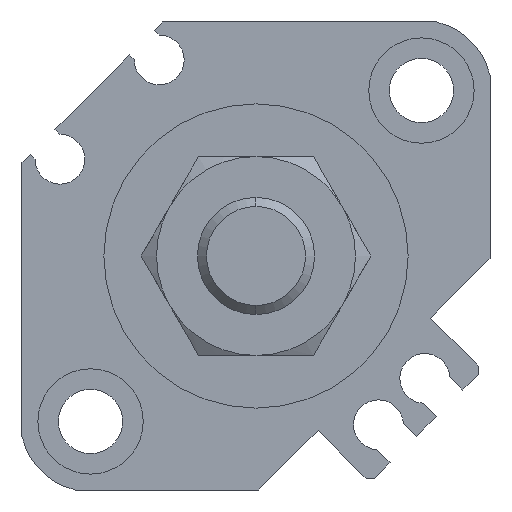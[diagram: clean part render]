
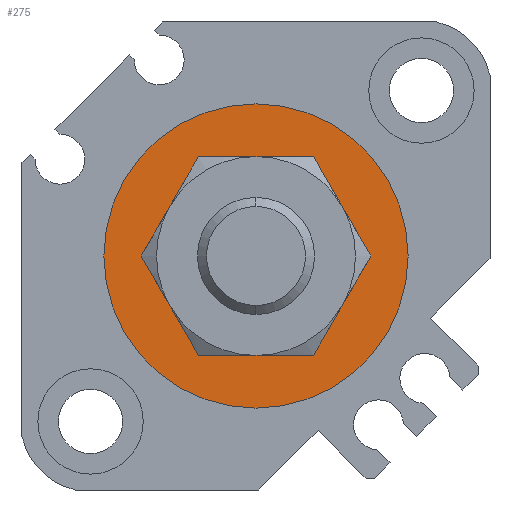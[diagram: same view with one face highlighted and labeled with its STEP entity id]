
A CAD part, left-side view. The second image highlights one B-rep face of the part: STEP entity #275.
In plain terms, the highlighted planar face has unit normal (-1, 0, 0).
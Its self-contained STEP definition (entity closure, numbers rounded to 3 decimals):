
#84 = EDGE_CURVE ( 'NONE', #685, #648, #2756, .T. ) ;
#141 = CIRCLE ( 'NONE', #4063, 7.5 ) ;
#172 = CARTESIAN_POINT ( 'NONE',  ( 1.9, 0., -13. ) ) ;
#270 = EDGE_CURVE ( 'NONE', #5042, #2590, #2208, .T. ) ;
#275 = ADVANCED_FACE ( 'NONE', ( #740, #3150 ), #1074, .F. ) ;
#297 = CARTESIAN_POINT ( 'NONE',  ( 1.9, 0., 0. ) ) ;
#382 = AXIS2_PLACEMENT_3D ( 'NONE', #4438, #2744, #4003 ) ;
#575 = CARTESIAN_POINT ( 'NONE',  ( 1.9, 0., -7.5 ) ) ;
#648 = VERTEX_POINT ( 'NONE', #575 ) ;
#685 = VERTEX_POINT ( 'NONE', #2296 ) ;
#714 = DIRECTION ( 'NONE',  ( 1., 0., 0. ) ) ;
#740 = FACE_OUTER_BOUND ( 'NONE', #3762, .T. ) ;
#743 = AXIS2_PLACEMENT_3D ( 'NONE', #3552, #4379, #4787 ) ;
#763 = DIRECTION ( 'NONE',  ( 0., 0., -1. ) ) ;
#791 = ORIENTED_EDGE ( 'NONE', *, *, #4454, .T. ) ;
#1074 = PLANE ( 'NONE',  #382 ) ;
#1096 = CIRCLE ( 'NONE', #743, 13. ) ;
#1124 = CARTESIAN_POINT ( 'NONE',  ( 1.9, 0., 0. ) ) ;
#1403 = CARTESIAN_POINT ( 'NONE',  ( 1.9, 0., 0. ) ) ;
#1848 = EDGE_LOOP ( 'NONE', ( #2675, #791 ) ) ;
#2162 = DIRECTION ( 'NONE',  ( 1., 0., 0. ) ) ;
#2208 = CIRCLE ( 'NONE', #5269, 13. ) ;
#2296 = CARTESIAN_POINT ( 'NONE',  ( 1.9, 0., 7.5 ) ) ;
#2590 = VERTEX_POINT ( 'NONE', #4585 ) ;
#2675 = ORIENTED_EDGE ( 'NONE', *, *, #84, .T. ) ;
#2744 = DIRECTION ( 'NONE',  ( 1., 0., 0. ) ) ;
#2756 = CIRCLE ( 'NONE', #3188, 7.5 ) ;
#2810 = DIRECTION ( 'NONE',  ( 1., 0., 0. ) ) ;
#3150 = FACE_BOUND ( 'NONE', #1848, .T. ) ;
#3188 = AXIS2_PLACEMENT_3D ( 'NONE', #1403, #2162, #3832 ) ;
#3348 = ORIENTED_EDGE ( 'NONE', *, *, #4653, .F. ) ;
#3552 = CARTESIAN_POINT ( 'NONE',  ( 1.9, 0., 0. ) ) ;
#3762 = EDGE_LOOP ( 'NONE', ( #3348, #4596 ) ) ;
#3832 = DIRECTION ( 'NONE',  ( 0., 0., -1. ) ) ;
#4003 = DIRECTION ( 'NONE',  ( 0., 1., 0. ) ) ;
#4063 = AXIS2_PLACEMENT_3D ( 'NONE', #297, #2810, #763 ) ;
#4379 = DIRECTION ( 'NONE',  ( 1., 0., 0. ) ) ;
#4438 = CARTESIAN_POINT ( 'NONE',  ( 1.9, 0., 0. ) ) ;
#4454 = EDGE_CURVE ( 'NONE', #648, #685, #141, .T. ) ;
#4486 = DIRECTION ( 'NONE',  ( 0., 0., -1. ) ) ;
#4585 = CARTESIAN_POINT ( 'NONE',  ( 1.9, 0., 13. ) ) ;
#4596 = ORIENTED_EDGE ( 'NONE', *, *, #270, .F. ) ;
#4653 = EDGE_CURVE ( 'NONE', #2590, #5042, #1096, .T. ) ;
#4787 = DIRECTION ( 'NONE',  ( 0., 0., -1. ) ) ;
#5042 = VERTEX_POINT ( 'NONE', #172 ) ;
#5269 = AXIS2_PLACEMENT_3D ( 'NONE', #1124, #714, #4486 ) ;
